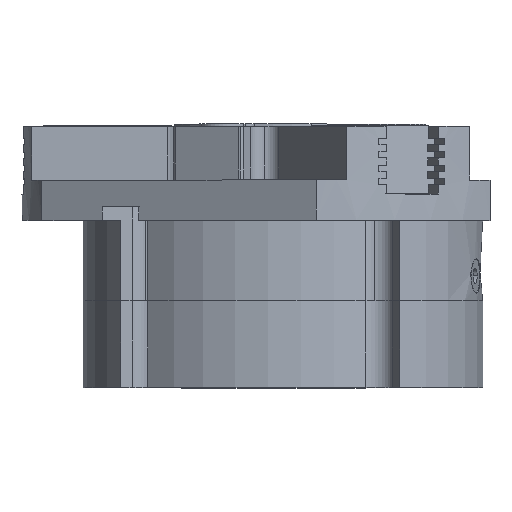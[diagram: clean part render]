
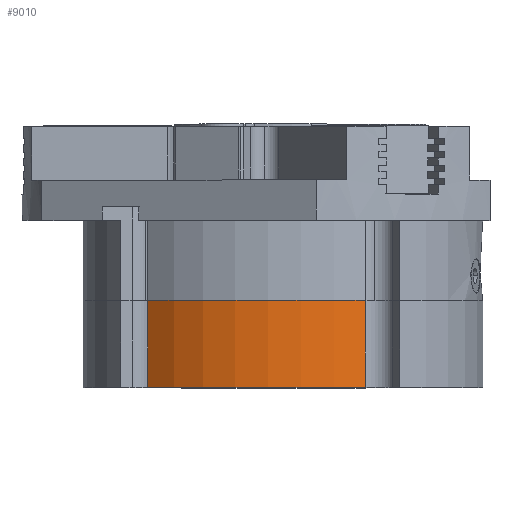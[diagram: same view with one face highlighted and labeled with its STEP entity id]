
A CAD part, top view. The second image highlights one B-rep face of the part: STEP entity #9010.
In plain terms, the highlighted cylindrical face has radius 150 mm (diameter 300 mm), a partial arc.
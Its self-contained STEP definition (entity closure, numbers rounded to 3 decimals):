
#364 = EDGE_CURVE ( 'NONE', #6173, #5785, #7076, .T. ) ;
#583 = ORIENTED_EDGE ( 'NONE', *, *, #14672, .T. ) ;
#1990 = VECTOR ( 'NONE', #4376, 1000. ) ;
#2107 = FACE_OUTER_BOUND ( 'NONE', #6357, .T. ) ;
#2683 = CIRCLE ( 'NONE', #5163, 150. ) ;
#3574 = CARTESIAN_POINT ( 'NONE',  ( -136.753, -11., 61.634 ) ) ;
#3806 = ORIENTED_EDGE ( 'NONE', *, *, #12970, .T. ) ;
#4056 = CARTESIAN_POINT ( 'NONE',  ( 0., 0., 0. ) ) ;
#4376 = DIRECTION ( 'NONE',  ( 0., 1., 0. ) ) ;
#5163 = AXIS2_PLACEMENT_3D ( 'NONE', #5809, #6898, #11808 ) ;
#5391 = DIRECTION ( 'NONE',  ( 0., 1., 0. ) ) ;
#5433 = CARTESIAN_POINT ( 'NONE',  ( -111.014, 65., -100.876 ) ) ;
#5629 = VERTEX_POINT ( 'NONE', #15792 ) ;
#5720 = CARTESIAN_POINT ( 'NONE',  ( -111.014, 65., -100.876 ) ) ;
#5785 = VERTEX_POINT ( 'NONE', #8487 ) ;
#5809 = CARTESIAN_POINT ( 'NONE',  ( 0., 65., 0. ) ) ;
#6173 = VERTEX_POINT ( 'NONE', #5720 ) ;
#6357 = EDGE_LOOP ( 'NONE', ( #583, #3806, #10568, #11453 ) ) ;
#6603 = EDGE_CURVE ( 'NONE', #5629, #6173, #2683, .T. ) ;
#6826 = AXIS2_PLACEMENT_3D ( 'NONE', #13820, #8907, #8853 ) ;
#6898 = DIRECTION ( 'NONE',  ( 0., -1., 0. ) ) ;
#7076 = LINE ( 'NONE', #5433, #9177 ) ;
#8487 = CARTESIAN_POINT ( 'NONE',  ( -111.014, 0., -100.876 ) ) ;
#8853 = DIRECTION ( 'NONE',  ( 0., 0., -1. ) ) ;
#8907 = DIRECTION ( 'NONE',  ( 0., -1., 0. ) ) ;
#9010 = ADVANCED_FACE ( 'NONE', ( #2107 ), #14350, .T. ) ;
#9071 = AXIS2_PLACEMENT_3D ( 'NONE', #4056, #5391, #13941 ) ;
#9177 = VECTOR ( 'NONE', #12997, 1000. ) ;
#10568 = ORIENTED_EDGE ( 'NONE', *, *, #6603, .T. ) ;
#10770 = LINE ( 'NONE', #3574, #1990 ) ;
#11453 = ORIENTED_EDGE ( 'NONE', *, *, #364, .T. ) ;
#11808 = DIRECTION ( 'NONE',  ( 0., 0., -1. ) ) ;
#12970 = EDGE_CURVE ( 'NONE', #14828, #5629, #10770, .T. ) ;
#12997 = DIRECTION ( 'NONE',  ( 0., -1., 0. ) ) ;
#13016 = CARTESIAN_POINT ( 'NONE',  ( -136.753, 0., 61.634 ) ) ;
#13820 = CARTESIAN_POINT ( 'NONE',  ( 0., 65., 0. ) ) ;
#13941 = DIRECTION ( 'NONE',  ( 0., 0., -1. ) ) ;
#14350 = CYLINDRICAL_SURFACE ( 'NONE', #6826, 150. ) ;
#14672 = EDGE_CURVE ( 'NONE', #5785, #14828, #14987, .T. ) ;
#14828 = VERTEX_POINT ( 'NONE', #13016 ) ;
#14987 = CIRCLE ( 'NONE', #9071, 150. ) ;
#15792 = CARTESIAN_POINT ( 'NONE',  ( -136.753, 65., 61.634 ) ) ;
